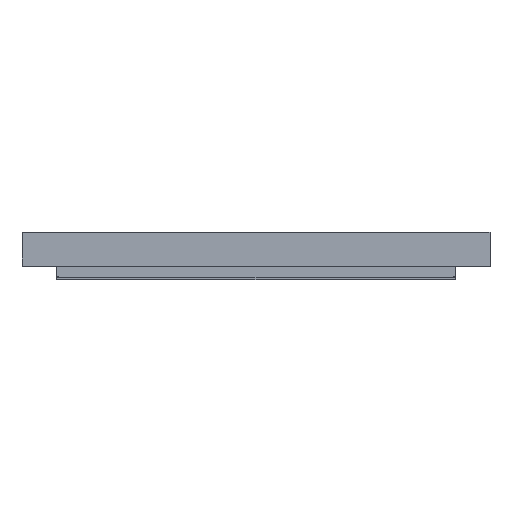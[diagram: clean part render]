
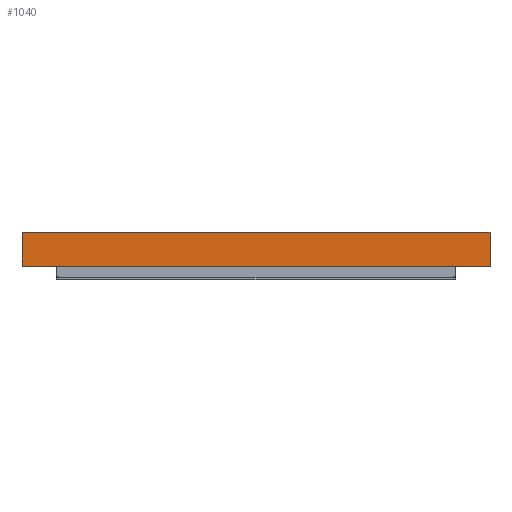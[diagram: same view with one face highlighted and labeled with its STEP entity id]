
A CAD part, left-side view. The second image highlights one B-rep face of the part: STEP entity #1040.
In plain terms, the highlighted planar face has unit normal (-1, 0, 0).
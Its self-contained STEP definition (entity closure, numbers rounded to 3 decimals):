
#9 = DIRECTION ( 'NONE',  ( 0., -1., 0. ) ) ;
#42 = CARTESIAN_POINT ( 'NONE',  ( -161.877, 0., 535. ) ) ;
#461 = LINE ( 'NONE', #5334, #5282 ) ;
#740 = AXIS2_PLACEMENT_3D ( 'NONE', #2760, #2321, #2848 ) ;
#794 = DIRECTION ( 'NONE',  ( 0., 0., 1. ) ) ;
#832 = EDGE_CURVE ( 'NONE', #4446, #1163, #2928, .T. ) ;
#1040 = ADVANCED_FACE ( 'NONE', ( #1922 ), #1462, .T. ) ;
#1163 = VERTEX_POINT ( 'NONE', #2491 ) ;
#1268 = ORIENTED_EDGE ( 'NONE', *, *, #832, .F. ) ;
#1372 = DIRECTION ( 'NONE',  ( 0., 1., 0. ) ) ;
#1462 = PLANE ( 'NONE',  #740 ) ;
#1547 = EDGE_CURVE ( 'NONE', #1163, #3898, #461, .T. ) ;
#1556 = CARTESIAN_POINT ( 'NONE',  ( -161.877, -297.5, 535. ) ) ;
#1851 = EDGE_LOOP ( 'NONE', ( #2483, #5284, #1268, #2821 ) ) ;
#1922 = FACE_OUTER_BOUND ( 'NONE', #1851, .T. ) ;
#2321 = DIRECTION ( 'NONE',  ( -1., 0., 0. ) ) ;
#2483 = ORIENTED_EDGE ( 'NONE', *, *, #3432, .F. ) ;
#2491 = CARTESIAN_POINT ( 'NONE',  ( -161.877, -297.5, 492. ) ) ;
#2614 = EDGE_CURVE ( 'NONE', #3645, #4446, #2654, .T. ) ;
#2654 = LINE ( 'NONE', #42, #5187 ) ;
#2760 = CARTESIAN_POINT ( 'NONE',  ( -161.877, 0., 513.5 ) ) ;
#2821 = ORIENTED_EDGE ( 'NONE', *, *, #2614, .F. ) ;
#2848 = DIRECTION ( 'NONE',  ( 0., 1., 0. ) ) ;
#2928 = LINE ( 'NONE', #3836, #3043 ) ;
#2929 = CARTESIAN_POINT ( 'NONE',  ( -161.877, 297.5, 535. ) ) ;
#3043 = VECTOR ( 'NONE', #4694, 1000. ) ;
#3432 = EDGE_CURVE ( 'NONE', #3898, #3645, #5648, .T. ) ;
#3633 = CARTESIAN_POINT ( 'NONE',  ( -161.877, 297.5, 492. ) ) ;
#3645 = VERTEX_POINT ( 'NONE', #2929 ) ;
#3836 = CARTESIAN_POINT ( 'NONE',  ( -161.877, -297.5, 513.5 ) ) ;
#3898 = VERTEX_POINT ( 'NONE', #3633 ) ;
#4446 = VERTEX_POINT ( 'NONE', #1556 ) ;
#4650 = VECTOR ( 'NONE', #794, 1000. ) ;
#4694 = DIRECTION ( 'NONE',  ( 0., 0., -1. ) ) ;
#4811 = CARTESIAN_POINT ( 'NONE',  ( -161.877, 297.5, 513.5 ) ) ;
#5187 = VECTOR ( 'NONE', #9, 1000. ) ;
#5282 = VECTOR ( 'NONE', #1372, 1000. ) ;
#5284 = ORIENTED_EDGE ( 'NONE', *, *, #1547, .F. ) ;
#5334 = CARTESIAN_POINT ( 'NONE',  ( -161.877, 0., 492. ) ) ;
#5648 = LINE ( 'NONE', #4811, #4650 ) ;
